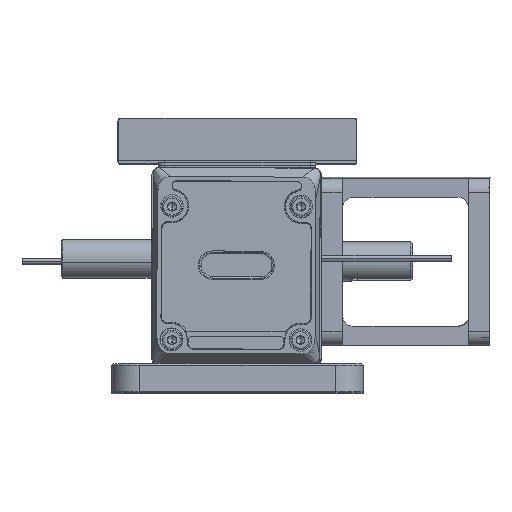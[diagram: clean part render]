
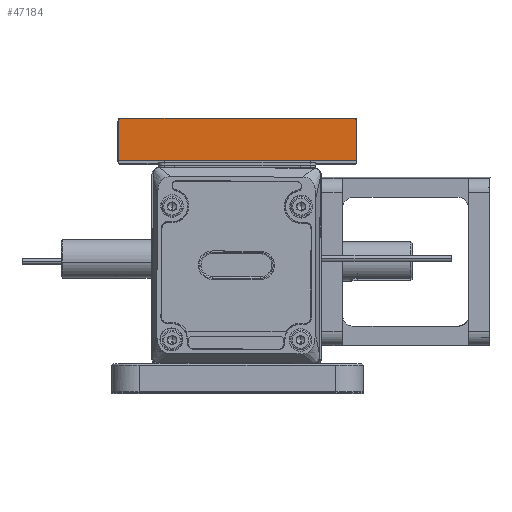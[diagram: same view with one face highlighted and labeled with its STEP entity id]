
A CAD part, top view. The second image highlights one B-rep face of the part: STEP entity #47184.
In plain terms, the highlighted planar face has unit normal (0, 0, 1).
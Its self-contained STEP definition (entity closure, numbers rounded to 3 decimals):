
#426 = CARTESIAN_POINT ( 'NONE',  ( 42.462, 20.5, 140.01 ) ) ;
#837 = AXIS2_PLACEMENT_3D ( 'NONE', #10569, #14016, #25641 ) ;
#5200 = LINE ( 'NONE', #9404, #33195 ) ;
#6362 = AXIS2_PLACEMENT_3D ( 'NONE', #21539, #40771, #20486 ) ;
#7215 = ORIENTED_EDGE ( 'NONE', *, *, #15344, .T. ) ;
#9317 = VERTEX_POINT ( 'NONE', #35612 ) ;
#9404 = CARTESIAN_POINT ( 'NONE',  ( -42.497, 35.5, 140.01 ) ) ;
#9732 = EDGE_CURVE ( 'NONE', #43207, #39183, #15646, .T. ) ;
#10490 = ORIENTED_EDGE ( 'NONE', *, *, #37669, .T. ) ;
#10569 = CARTESIAN_POINT ( 'NONE',  ( -42.497, 20.5, 140.01 ) ) ;
#10729 = VECTOR ( 'NONE', #32592, 1000. ) ;
#11426 = DIRECTION ( 'NONE',  ( 1., 0., 0. ) ) ;
#12404 = CARTESIAN_POINT ( 'NONE',  ( -42.497, 20.5, 140.01 ) ) ;
#13892 = ORIENTED_EDGE ( 'NONE', *, *, #21315, .F. ) ;
#14016 = DIRECTION ( 'NONE',  ( 0., 0., 1. ) ) ;
#15344 = EDGE_CURVE ( 'NONE', #15814, #9317, #50311, .T. ) ;
#15646 = LINE ( 'NONE', #19602, #41685 ) ;
#15814 = VERTEX_POINT ( 'NONE', #34855 ) ;
#15869 = VECTOR ( 'NONE', #36909, 1000. ) ;
#18091 = CARTESIAN_POINT ( 'NONE',  ( -41.497, 34.5, 140.01 ) ) ;
#18410 = EDGE_CURVE ( 'NONE', #15814, #39196, #5200, .T. ) ;
#19171 = AXIS2_PLACEMENT_3D ( 'NONE', #18091, #26043, #21268 ) ;
#19602 = CARTESIAN_POINT ( 'NONE',  ( -42.497, 20.5, 140.01 ) ) ;
#20486 = DIRECTION ( 'NONE',  ( 1., 0., 0. ) ) ;
#21268 = DIRECTION ( 'NONE',  ( 1., 0., 0. ) ) ;
#21315 = EDGE_CURVE ( 'NONE', #43207, #9317, #32968, .T. ) ;
#21539 = CARTESIAN_POINT ( 'NONE',  ( 41.462, 34.5, 140.01 ) ) ;
#22713 = EDGE_LOOP ( 'NONE', ( #37904, #10490, #46623, #7215, #13892, #34464 ) ) ;
#23459 = CARTESIAN_POINT ( 'NONE',  ( 41.462, 35.5, 140.01 ) ) ;
#25641 = DIRECTION ( 'NONE',  ( 1., 0., 0. ) ) ;
#26043 = DIRECTION ( 'NONE',  ( 0., 0., 1. ) ) ;
#32592 = DIRECTION ( 'NONE',  ( 0., 1., 0. ) ) ;
#32968 = LINE ( 'NONE', #12404, #15869 ) ;
#33195 = VECTOR ( 'NONE', #49959, 1000. ) ;
#34328 = EDGE_CURVE ( 'NONE', #39183, #36608, #36525, .T. ) ;
#34464 = ORIENTED_EDGE ( 'NONE', *, *, #9732, .T. ) ;
#34855 = CARTESIAN_POINT ( 'NONE',  ( -41.497, 35.5, 140.01 ) ) ;
#35612 = CARTESIAN_POINT ( 'NONE',  ( -42.497, 34.5, 140.01 ) ) ;
#36525 = LINE ( 'NONE', #426, #10729 ) ;
#36608 = VERTEX_POINT ( 'NONE', #40058 ) ;
#36909 = DIRECTION ( 'NONE',  ( 0., 1., 0. ) ) ;
#37669 = EDGE_CURVE ( 'NONE', #36608, #39196, #48469, .T. ) ;
#37904 = ORIENTED_EDGE ( 'NONE', *, *, #34328, .T. ) ;
#38091 = CARTESIAN_POINT ( 'NONE',  ( -42.497, 20.5, 140.01 ) ) ;
#39183 = VERTEX_POINT ( 'NONE', #51887 ) ;
#39196 = VERTEX_POINT ( 'NONE', #23459 ) ;
#40058 = CARTESIAN_POINT ( 'NONE',  ( 42.462, 34.5, 140.01 ) ) ;
#40771 = DIRECTION ( 'NONE',  ( 0., 0., 1. ) ) ;
#41685 = VECTOR ( 'NONE', #11426, 1000. ) ;
#42471 = FACE_OUTER_BOUND ( 'NONE', #22713, .T. ) ;
#43207 = VERTEX_POINT ( 'NONE', #38091 ) ;
#46623 = ORIENTED_EDGE ( 'NONE', *, *, #18410, .F. ) ;
#47184 = ADVANCED_FACE ( 'NONE', ( #42471 ), #50353, .T. ) ;
#48469 = CIRCLE ( 'NONE', #6362, 1. ) ;
#49959 = DIRECTION ( 'NONE',  ( 1., 0., 0. ) ) ;
#50311 = CIRCLE ( 'NONE', #19171, 1. ) ;
#50353 = PLANE ( 'NONE',  #837 ) ;
#51887 = CARTESIAN_POINT ( 'NONE',  ( 42.462, 20.5, 140.01 ) ) ;
